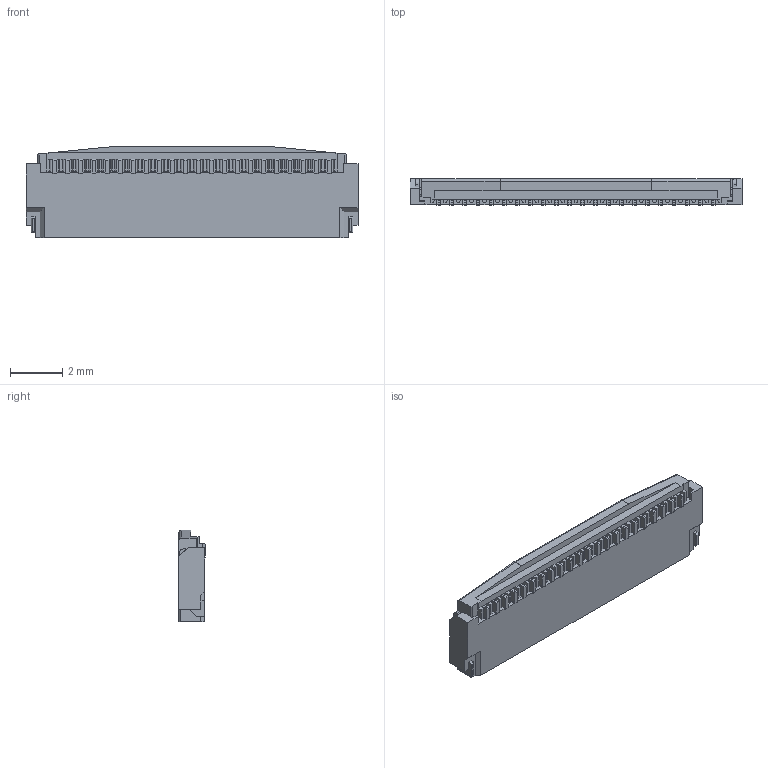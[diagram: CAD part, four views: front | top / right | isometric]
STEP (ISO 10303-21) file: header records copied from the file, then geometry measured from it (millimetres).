
FILE_DESCRIPTION (( 'STEP AP203' ), '1' );
FILE_NAME ('20542-022E-01C ACT CLOSE STEP R1 ALL.STEP', '2013-03-20T08:32:23', ( '' ), ( '' ), 'SwSTEP 2.0', 'SolidWorks 2011', '' );
FILE_SCHEMA (( 'CONFIG_CONTROL_DESIGN' ));
Length unit declared in the file: millimetre
Products named in the file (1): 20542-022E-01C ACT CLOSE STEP R1 ALL
Bounding box: 12.7 x 1 x 3.5 mm (x, y, z)
Volume: 37.3 mm3; surface area: 129 mm2
Topology: 1 solids, 1 shells, 493 faces, 1555 edges, 1018 vertices
Faces by surface type: plane 392, cylinder 99, sphere 2
Entity records: 17132 total; most frequent: ORIENTED_EDGE 3106, CARTESIAN_POINT 3083, DIRECTION 2731, EDGE_CURVE 1553, LINE 1351, VECTOR 1351, VERTEX_POINT 1018, AXIS2_PLACEMENT_3D 690
